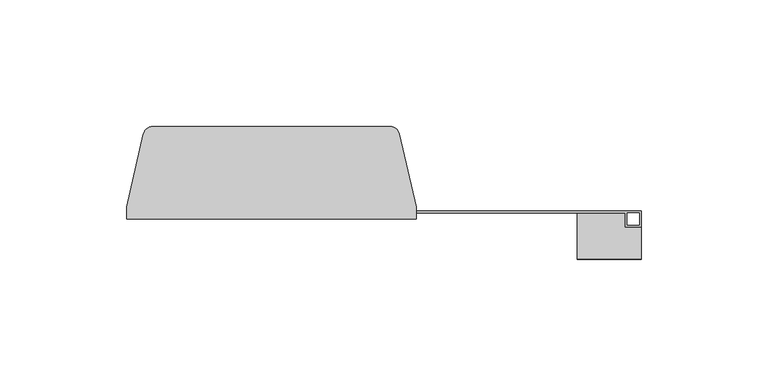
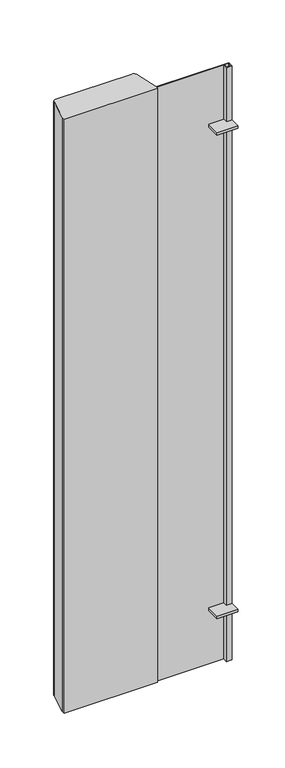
"""IFC4 building model written with IfcOpenShell, lengths in millimetres: furniture geometry, HermanMiller_Carts_CT710_LockBarRight : 42H Cart Rt Side Lock Keyed Alike."""

from ifc_helpers import new_model, si_unit, point, frame, frame_2d, origin, place, context, project, spatial, polyline, circle_curve, trimmed, segment, composite_curve, outline, extrude, source, transform, mapped, element, save


def furniture_279ede34(model_context):
    return source(origin(), model_context, "Body", "SweptSolid", [
        extrude(outline(composite_curve([segment(trimmed(circle_curve(frame_2d((-13.6569003, -3.9497)), 3.9624), [point((-13.6569003, 0.0127))], [point((-9.7960564, -3.0583539))], False, "CARTESIAN"), True, "CONTINUOUS"), segment(polyline([(-9.7960564, -3.0583539), (-3.175, -31.7373), (-3.175, -36.5125), (-117.475, -36.5125), (-117.475, -31.7373), (-110.8539436, -3.0583539)]), True, "CONTINUOUS"), segment(trimmed(circle_curve(frame_2d((-106.9930997, -3.9497)), 3.9624), [point((-110.8539436, -3.0583539))], [point((-106.9930997, 0.0127))], False, "CARTESIAN"), True, "CONTINUOUS"), segment(polyline([(-106.9930997, 0.0127), (-13.6569003, 0.0127)]), True, "CONTINUOUS")], self_intersect=False)), frame((0.0, 0.0, 1035.05), z_axis=(0.0, 0.0, 1.0), x_axis=(1.0, 0.0, 0.0)), (0.0, 0.0, 1.0), 768.35),
        extrude(outline(polyline([(79.375, -34.1452298), (-3.175, -34.1452298), (-3.175, -33.3375), (85.725, -33.3375), (85.725, -39.6875), (79.375, -39.6875), (79.375, -34.1452298)]), holes=[polyline([(80.1999447, -38.8797702), (84.9000553, -38.8797702), (84.9000553, -34.1452298), (80.1999447, -34.1452298), (80.1999447, -38.8797702)])]), frame((0.0, 0.0, 1035.05), z_axis=(0.0, 0.0, 1.0), x_axis=(1.0, 0.0, 0.0)), (0.0, 0.0, 1.0), 768.35),
        extrude(outline(polyline([(60.325, -52.3875), (60.325, -34.1452298), (79.375, -34.1452298), (79.375, -39.6875), (85.725, -39.6875), (85.725, -52.3875), (60.325, -52.3875)])), frame((0.0, 0.0, 1104.9), z_axis=(0.0, 0.0, 1.0), x_axis=(1.0, 0.0, 0.0)), (0.0, 0.0, 1.0), 3.175),
        extrude(outline(polyline([(60.325, -52.3875), (60.325, -34.1452298), (79.375, -34.1452298), (79.375, -39.6875), (85.725, -39.6875), (85.725, -52.3875), (60.325, -52.3875)])), frame((0.0, 0.0, 1730.375), z_axis=(0.0, 0.0, 1.0), x_axis=(1.0, 0.0, 0.0)), (0.0, 0.0, 1.0), 3.175),
    ])


if __name__ == "__main__":
    model = new_model("IFC4")
    model_context = context("Model", 3, world=origin())
    ifc_project = project(units=[si_unit("LENGTHUNIT", "METRE", prefix="MILLI")], contexts=[model_context])
    site = spatial("IfcSite", under=ifc_project)
    building = spatial("IfcBuilding", under=site)
    placement = place(None, origin())
    furniture_shape = furniture_279ede34(model_context)
    element("IfcFurniture", 1, ObjectType="HermanMiller_Carts_CT710_LockBarRight : 42H Cart Rt Side Lock Keyed Alike", at=placement, inside=building, context=model_context, shape_type="MappedRepresentation", body=[
        mapped(furniture_shape, transform((0.0, 0.0, 0.0), x_axis=(1.0, 0.0, 0.0), y_axis=(0.0, 1.0, 0.0), z_axis=(0.0, 0.0, 1.0))),
    ])
    save(model, "model.ifc")
